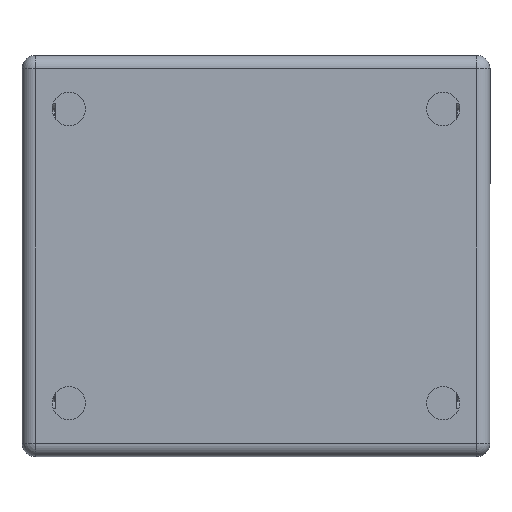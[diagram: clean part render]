
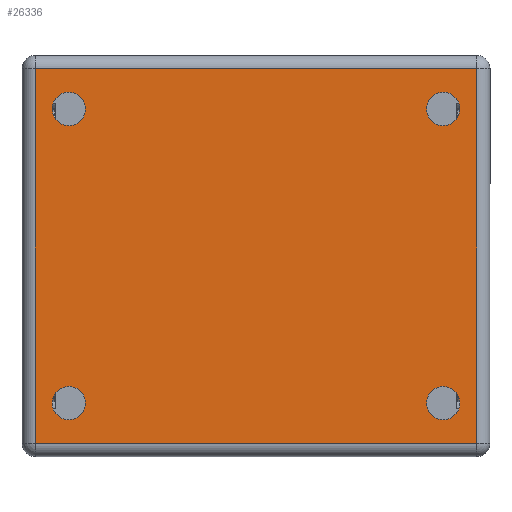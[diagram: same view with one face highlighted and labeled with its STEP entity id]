
A CAD part, front view. The second image highlights one B-rep face of the part: STEP entity #26336.
In plain terms, the highlighted planar face has unit normal (0, -1, 0).
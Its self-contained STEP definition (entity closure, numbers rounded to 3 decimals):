
#49 = AXIS2_PLACEMENT_3D ( 'NONE', #6703, #21440, #8837 ) ;
#354 = CARTESIAN_POINT ( 'NONE',  ( 10.971, -13.858, -11.001 ) ) ;
#569 = CIRCLE ( 'NONE', #2222, 1.25 ) ;
#689 = EDGE_CURVE ( 'NONE', #8376, #17082, #5670, .T. ) ;
#955 = CARTESIAN_POINT ( 'NONE',  ( -19.529, -13.858, 14.999 ) ) ;
#1169 = VECTOR ( 'NONE', #13371, 1000. ) ;
#1247 = ORIENTED_EDGE ( 'NONE', *, *, #7989, .T. ) ;
#1258 = ORIENTED_EDGE ( 'NONE', *, *, #10078, .T. ) ;
#1261 = CARTESIAN_POINT ( 'NONE',  ( -20.529, -13.858, 14.999 ) ) ;
#1516 = VERTEX_POINT ( 'NONE', #15507 ) ;
#1567 = DIRECTION ( 'NONE',  ( 0., 0., 1. ) ) ;
#2105 = CARTESIAN_POINT ( 'NONE',  ( 13.471, -13.858, -14.001 ) ) ;
#2151 = CARTESIAN_POINT ( 'NONE',  ( -17.029, -13.858, 9.749 ) ) ;
#2222 = AXIS2_PLACEMENT_3D ( 'NONE', #14604, #7073, #11515 ) ;
#2618 = AXIS2_PLACEMENT_3D ( 'NONE', #24320, #11614, #26521 ) ;
#2708 = EDGE_CURVE ( 'NONE', #21752, #1516, #19976, .T. ) ;
#2998 = ORIENTED_EDGE ( 'NONE', *, *, #4510, .T. ) ;
#3012 = FACE_BOUND ( 'NONE', #7786, .T. ) ;
#3020 = VERTEX_POINT ( 'NONE', #16613 ) ;
#3420 = CARTESIAN_POINT ( 'NONE',  ( -20.529, -13.858, -14.001 ) ) ;
#3483 = AXIS2_PLACEMENT_3D ( 'NONE', #1261, #22209, #9606 ) ;
#3837 = CARTESIAN_POINT ( 'NONE',  ( -17.029, -13.858, -11.001 ) ) ;
#4227 = LINE ( 'NONE', #3420, #26061 ) ;
#4510 = EDGE_CURVE ( 'NONE', #11442, #14387, #569, .T. ) ;
#4659 = AXIS2_PLACEMENT_3D ( 'NONE', #26831, #14018, #1567 ) ;
#5365 = EDGE_LOOP ( 'NONE', ( #1258, #2998 ) ) ;
#5670 = CIRCLE ( 'NONE', #11692, 1.25 ) ;
#5844 = VECTOR ( 'NONE', #17929, 1000. ) ;
#5900 = DIRECTION ( 'NONE',  ( 0., 0., 1. ) ) ;
#6703 = CARTESIAN_POINT ( 'NONE',  ( -17.029, -13.858, 10.999 ) ) ;
#7073 = DIRECTION ( 'NONE',  ( 0., 1., 0. ) ) ;
#7480 = PLANE ( 'NONE',  #3483 ) ;
#7510 = AXIS2_PLACEMENT_3D ( 'NONE', #3837, #18486, #5900 ) ;
#7676 = CARTESIAN_POINT ( 'NONE',  ( -20.529, -13.858, 13.999 ) ) ;
#7693 = AXIS2_PLACEMENT_3D ( 'NONE', #16736, #16805, #18018 ) ;
#7786 = EDGE_LOOP ( 'NONE', ( #21209, #1247 ) ) ;
#7870 = FACE_BOUND ( 'NONE', #5365, .T. ) ;
#7989 = EDGE_CURVE ( 'NONE', #17082, #8376, #17061, .T. ) ;
#8376 = VERTEX_POINT ( 'NONE', #16952 ) ;
#8711 = EDGE_CURVE ( 'NONE', #10737, #22294, #8838, .T. ) ;
#8837 = DIRECTION ( 'NONE',  ( 0., 0., 1. ) ) ;
#8838 = LINE ( 'NONE', #7676, #25777 ) ;
#9076 = DIRECTION ( 'NONE',  ( 0., 0., 1. ) ) ;
#9108 = ORIENTED_EDGE ( 'NONE', *, *, #24252, .T. ) ;
#9606 = DIRECTION ( 'NONE',  ( 0., 0., 1. ) ) ;
#10078 = EDGE_CURVE ( 'NONE', #14387, #11442, #14655, .T. ) ;
#10725 = EDGE_LOOP ( 'NONE', ( #14285, #16906, #22317, #13681 ) ) ;
#10737 = VERTEX_POINT ( 'NONE', #11076 ) ;
#11076 = CARTESIAN_POINT ( 'NONE',  ( 13.471, -13.858, 13.999 ) ) ;
#11106 = CIRCLE ( 'NONE', #7510, 1.25 ) ;
#11220 = CARTESIAN_POINT ( 'NONE',  ( -19.529, -13.858, 13.999 ) ) ;
#11250 = CARTESIAN_POINT ( 'NONE',  ( 10.971, -13.858, -12.251 ) ) ;
#11374 = DIRECTION ( 'NONE',  ( 0., 1., 0. ) ) ;
#11442 = VERTEX_POINT ( 'NONE', #2151 ) ;
#11515 = DIRECTION ( 'NONE',  ( 0., 0., 1. ) ) ;
#11553 = CARTESIAN_POINT ( 'NONE',  ( 10.971, -13.858, 12.249 ) ) ;
#11614 = DIRECTION ( 'NONE',  ( 0., 1., 0. ) ) ;
#11692 = AXIS2_PLACEMENT_3D ( 'NONE', #354, #18071, #9076 ) ;
#12624 = CARTESIAN_POINT ( 'NONE',  ( -17.029, -13.858, 12.249 ) ) ;
#12748 = FACE_BOUND ( 'NONE', #16227, .T. ) ;
#12901 = EDGE_CURVE ( 'NONE', #1516, #21752, #11106, .T. ) ;
#13371 = DIRECTION ( 'NONE',  ( 0., 0., -1. ) ) ;
#13554 = EDGE_CURVE ( 'NONE', #3020, #24442, #4227, .T. ) ;
#13681 = ORIENTED_EDGE ( 'NONE', *, *, #14075, .T. ) ;
#14018 = DIRECTION ( 'NONE',  ( 0., 1., 0. ) ) ;
#14075 = EDGE_CURVE ( 'NONE', #24442, #10737, #23345, .T. ) ;
#14285 = ORIENTED_EDGE ( 'NONE', *, *, #8711, .T. ) ;
#14387 = VERTEX_POINT ( 'NONE', #12624 ) ;
#14604 = CARTESIAN_POINT ( 'NONE',  ( -17.029, -13.858, 10.999 ) ) ;
#14655 = CIRCLE ( 'NONE', #49, 1.25 ) ;
#15219 = ORIENTED_EDGE ( 'NONE', *, *, #25974, .T. ) ;
#15507 = CARTESIAN_POINT ( 'NONE',  ( -17.029, -13.858, -12.251 ) ) ;
#15821 = ORIENTED_EDGE ( 'NONE', *, *, #2708, .T. ) ;
#16227 = EDGE_LOOP ( 'NONE', ( #15821, #20165 ) ) ;
#16613 = CARTESIAN_POINT ( 'NONE',  ( -19.529, -13.858, -14.001 ) ) ;
#16736 = CARTESIAN_POINT ( 'NONE',  ( -17.029, -13.858, -11.001 ) ) ;
#16805 = DIRECTION ( 'NONE',  ( 0., 1., 0. ) ) ;
#16906 = ORIENTED_EDGE ( 'NONE', *, *, #18309, .T. ) ;
#16952 = CARTESIAN_POINT ( 'NONE',  ( 10.971, -13.858, -9.751 ) ) ;
#16954 = CARTESIAN_POINT ( 'NONE',  ( 10.971, -13.858, 9.749 ) ) ;
#17061 = CIRCLE ( 'NONE', #18529, 1.25 ) ;
#17082 = VERTEX_POINT ( 'NONE', #11250 ) ;
#17929 = DIRECTION ( 'NONE',  ( 0., 0., 1. ) ) ;
#18018 = DIRECTION ( 'NONE',  ( 0., 0., 1. ) ) ;
#18071 = DIRECTION ( 'NONE',  ( 0., 1., 0. ) ) ;
#18227 = EDGE_LOOP ( 'NONE', ( #9108, #15219 ) ) ;
#18309 = EDGE_CURVE ( 'NONE', #22294, #3020, #22814, .T. ) ;
#18380 = FACE_OUTER_BOUND ( 'NONE', #10725, .T. ) ;
#18486 = DIRECTION ( 'NONE',  ( 0., 1., 0. ) ) ;
#18529 = AXIS2_PLACEMENT_3D ( 'NONE', #24064, #11374, #26266 ) ;
#19976 = CIRCLE ( 'NONE', #7693, 1.25 ) ;
#20152 = DIRECTION ( 'NONE',  ( 1., 0., 0. ) ) ;
#20165 = ORIENTED_EDGE ( 'NONE', *, *, #12901, .T. ) ;
#20691 = CIRCLE ( 'NONE', #2618, 1.25 ) ;
#20777 = CARTESIAN_POINT ( 'NONE',  ( -17.029, -13.858, -9.751 ) ) ;
#21209 = ORIENTED_EDGE ( 'NONE', *, *, #689, .T. ) ;
#21440 = DIRECTION ( 'NONE',  ( 0., 1., 0. ) ) ;
#21752 = VERTEX_POINT ( 'NONE', #20777 ) ;
#22095 = CARTESIAN_POINT ( 'NONE',  ( 13.471, -13.858, 14.999 ) ) ;
#22209 = DIRECTION ( 'NONE',  ( 0., 1., 0. ) ) ;
#22294 = VERTEX_POINT ( 'NONE', #11220 ) ;
#22317 = ORIENTED_EDGE ( 'NONE', *, *, #13554, .T. ) ;
#22743 = VERTEX_POINT ( 'NONE', #11553 ) ;
#22814 = LINE ( 'NONE', #955, #1169 ) ;
#23045 = VERTEX_POINT ( 'NONE', #16954 ) ;
#23140 = CIRCLE ( 'NONE', #4659, 1.25 ) ;
#23345 = LINE ( 'NONE', #22095, #5844 ) ;
#24064 = CARTESIAN_POINT ( 'NONE',  ( 10.971, -13.858, -11.001 ) ) ;
#24252 = EDGE_CURVE ( 'NONE', #22743, #23045, #23140, .T. ) ;
#24320 = CARTESIAN_POINT ( 'NONE',  ( 10.971, -13.858, 10.999 ) ) ;
#24442 = VERTEX_POINT ( 'NONE', #2105 ) ;
#24600 = DIRECTION ( 'NONE',  ( -1., 0., 0. ) ) ;
#25465 = FACE_BOUND ( 'NONE', #18227, .T. ) ;
#25777 = VECTOR ( 'NONE', #24600, 1000. ) ;
#25974 = EDGE_CURVE ( 'NONE', #23045, #22743, #20691, .T. ) ;
#26061 = VECTOR ( 'NONE', #20152, 1000. ) ;
#26266 = DIRECTION ( 'NONE',  ( 0., 0., 1. ) ) ;
#26336 = ADVANCED_FACE ( 'NONE', ( #18380, #25465, #3012, #7870, #12748 ), #7480, .F. ) ;
#26521 = DIRECTION ( 'NONE',  ( 0., 0., 1. ) ) ;
#26831 = CARTESIAN_POINT ( 'NONE',  ( 10.971, -13.858, 10.999 ) ) ;
